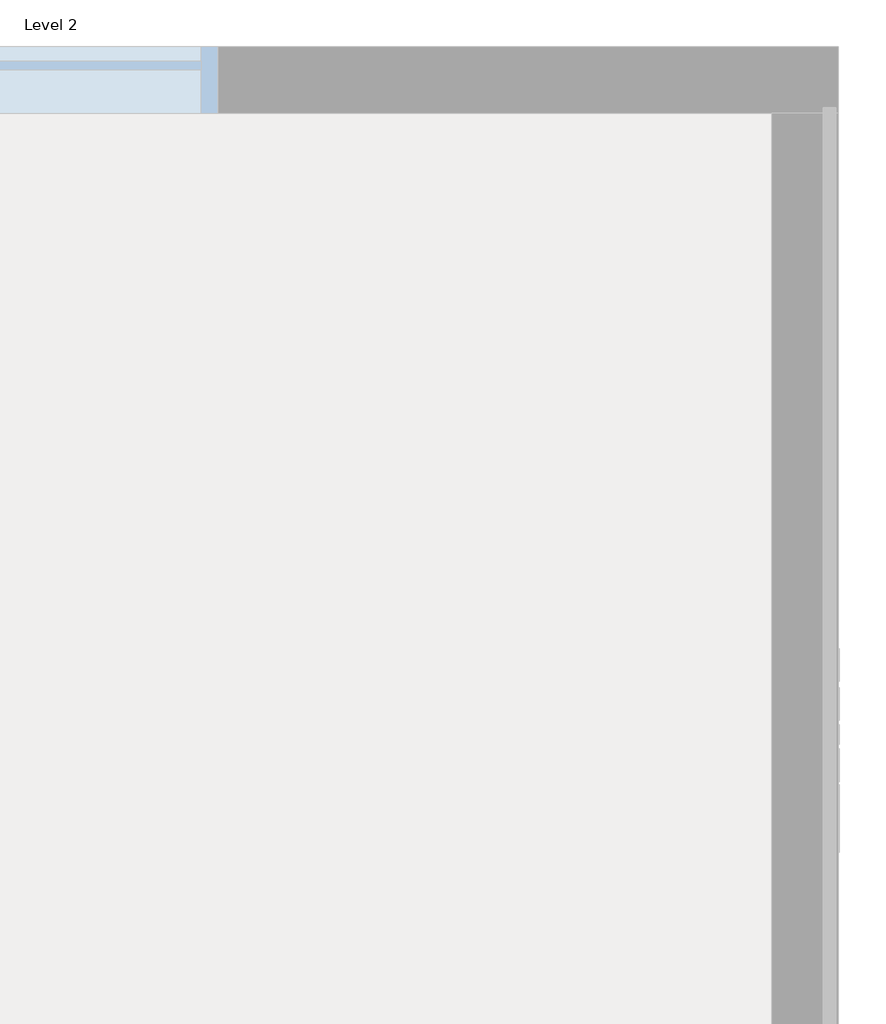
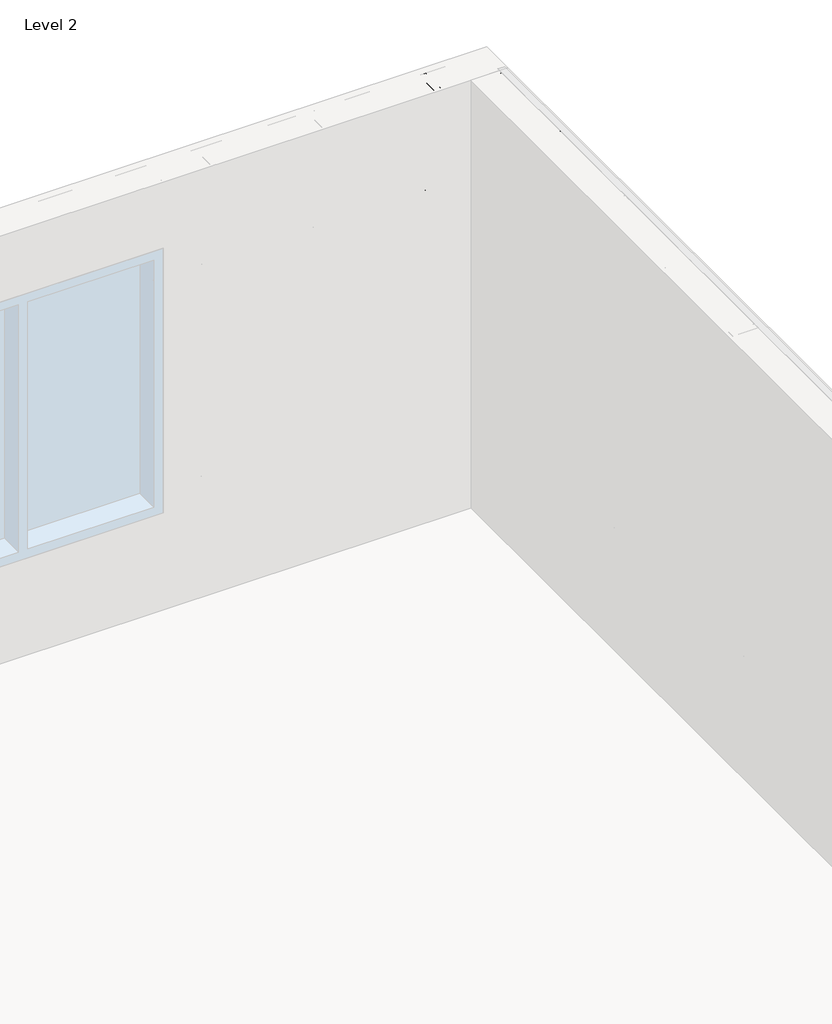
# One storey, part 46 of 46: 4 columns.
"""IFC4 building model written with IfcOpenShell, lengths in millimetres."""

from ifc_helpers import new_model, si_unit, point, frame, origin, place, context, project, spatial, circle_curve, ellipse_curve, trimmed, element, save
from ifc_brep_helpers import plane_surface, extruded_surface, advanced_brep

model = new_model("IFC4")

# Units and contexts
model_context = context("Model", 3, world=origin())
ifc_project = project(units=[si_unit("LENGTHUNIT", "METRE", prefix="MILLI")], contexts=[model_context])

# Site, building, storey
site = spatial("IfcSite", under=ifc_project)
building = spatial("IfcBuilding", under=site)
storey = spatial("IfcBuildingStorey", under=building, Name="Level 2", Elevation=3060.7)

# Columns
placement = place(None, origin())
element("IfcColumn", 1, ObjectType="BIMSF-SSMA-S-Column : 550NF150-43", at=placement, inside=storey, context=model_context, shape_type="AdvancedBrep", body=[
    advanced_brep(
    [(-3071.9413349, 14005.052221, 3061.5929687), (-3071.9413349, 13865.352221, 3061.5929687), (-3110.0413349, 13865.352221, 3061.5929687), (-3110.0413349, 13871.2771052, 3061.5929687), (-3108.8916507, 13871.2771052, 3061.5929687), (-3108.8916507, 13866.5019052, 3061.5929687), (-3073.0910191, 13866.5019052, 3061.5929687), (-3073.0910191, 14003.9025367, 3061.5929687), (-3108.8916507, 14003.9025367, 3061.5929687), (-3108.8916507, 13999.1273367, 3061.5929687), (-3110.0413349, 13999.1273367, 3061.5929687), (-3110.0413349, 14005.052221, 3061.5929687), (-3071.9413349, 14005.052221, 5523.6070313), (-3071.9413349, 13865.352221, 5523.6070313), (-3071.9413349, 13922.502221, 3671.1929688), (-3071.9413349, 13947.902221, 3671.1929688), (-3071.9413349, 13922.502221, 4890.3929687), (-3071.9413349, 13947.902221, 4890.3929687), (-3110.0413349, 13865.352221, 5523.6070313), (-3110.0413349, 13871.2771052, 5523.6070313), (-3108.8916507, 13871.2771052, 5523.6070313), (-3108.8916507, 13866.5019052, 5523.6070313), (-3073.0910191, 13866.5019052, 5523.6070313), (-3073.0910191, 14003.9025367, 5523.6070313), (-3073.0910191, 13947.902221, 3671.1929687), (-3073.0910191, 13922.502221, 3671.1929688), (-3073.0910191, 13947.902221, 4890.3929687), (-3073.0910191, 13922.502221, 4890.3929687), (-3108.8916507, 14003.9025367, 5523.6070313), (-3108.8916507, 13999.1273367, 5523.6070313), (-3110.0413349, 13999.1273367, 5523.6070313), (-3110.0413349, 14005.052221, 5523.6070313)],
    [
        (0, 1),
        (1, 2),
        (2, 3),
        (3, 4),
        (4, 5),
        (5, 6),
        (6, 7),
        (7, 8),
        (8, 9),
        (9, 10),
        (10, 11),
        (11, 0),
        (0, 12),
        (12, 13),
        (13, 1),
        (14, 15, circle_curve(frame((-3071.9413349, 13935.202221, 3671.1929688), z_axis=(-1.0, 0.0, 0.0), x_axis=(0.0, -1.0, 0.0)), 12.7)),
        (15, 14, circle_curve(frame((-3071.9413349, 13935.202221, 3671.1929688), z_axis=(-1.0, 0.0, 0.0), x_axis=(0.0, -1.0, 0.0)), 12.7)),
        (16, 17, circle_curve(frame((-3071.9413349, 13935.202221, 4890.3929688), z_axis=(-1.0, 0.0, 0.0), x_axis=(0.0, -1.0, 0.0)), 12.7)),
        (17, 16, circle_curve(frame((-3071.9413349, 13935.202221, 4890.3929688), z_axis=(-1.0, 0.0, 0.0), x_axis=(0.0, -1.0, 0.0)), 12.7)),
        (13, 18),
        (18, 2),
        (18, 19),
        (19, 3),
        (19, 20),
        (20, 4),
        (20, 21),
        (21, 5),
        (21, 22),
        (22, 6),
        (22, 23),
        (23, 7),
        (24, 25, circle_curve(frame((-3073.0910191, 13935.202221, 3671.1929688), z_axis=(1.0, 0.0, 0.0), x_axis=(0.0, -1.0, 0.0)), 12.7)),
        (25, 24, circle_curve(frame((-3073.0910191, 13935.202221, 3671.1929688), z_axis=(1.0, 0.0, 0.0), x_axis=(0.0, -1.0, 0.0)), 12.7)),
        (26, 27, circle_curve(frame((-3073.0910191, 13935.202221, 4890.3929687), z_axis=(1.0, 0.0, 0.0), x_axis=(0.0, -1.0, 0.0)), 12.7)),
        (27, 26, circle_curve(frame((-3073.0910191, 13935.202221, 4890.3929687), z_axis=(1.0, 0.0, 0.0), x_axis=(0.0, -1.0, 0.0)), 12.7)),
        (23, 28),
        (28, 8),
        (28, 29),
        (29, 9),
        (29, 30),
        (30, 10),
        (30, 31),
        (31, 11),
        (31, 12),
        (24, 15),
        (14, 25),
        (26, 17),
        (16, 27),
    ],
    [
        plane_surface(frame((-3071.9413349, 14005.052221, 3061.5929687), z_axis=(0.0, 0.0, -1.0), x_axis=(1.0, 0.0, 0.0))),
        plane_surface(frame((-3071.9413349, 13865.352221, 5523.6070313), z_axis=(1.0, 0.0, 0.0), x_axis=(0.0, 0.0, -1.0))),
        plane_surface(frame((-3110.0413349, 13865.352221, 5523.6070313), z_axis=(0.0, -1.0, 0.0), x_axis=(0.0, 0.0, -1.0))),
        plane_surface(frame((-3110.0413349, 13871.2771052, 5523.6070313), z_axis=(-1.0, 0.0, 0.0), x_axis=(0.0, 0.0, -1.0))),
        plane_surface(frame((-3108.8916507, 13871.2771052, 5523.6070313), z_axis=(0.0, 1.0, 0.0), x_axis=(0.0, 0.0, -1.0))),
        plane_surface(frame((-3108.8916507, 13866.5019052, 5523.6070313), z_axis=(1.0, 0.0, 0.0), x_axis=(0.0, 0.0, -1.0))),
        plane_surface(frame((-3073.0910191, 13866.5019052, 5523.6070313), z_axis=(0.0, 1.0, 0.0), x_axis=(0.0, 0.0, -1.0))),
        plane_surface(frame((-3073.0910191, 14003.9025367, 5523.6070313), z_axis=(-1.0, 0.0, 0.0), x_axis=(0.0, 0.0, -1.0))),
        plane_surface(frame((-3108.8916507, 14003.9025367, 5523.6070313), z_axis=(0.0, -1.0, 0.0), x_axis=(0.0, 0.0, -1.0))),
        plane_surface(frame((-3108.8916507, 13999.1273367, 5523.6070313), z_axis=(1.0, 0.0, 0.0), x_axis=(0.0, 0.0, -1.0))),
        plane_surface(frame((-3110.0413349, 13999.1273367, 5523.6070313), z_axis=(0.0, -1.0, 0.0), x_axis=(0.0, 0.0, -1.0))),
        plane_surface(frame((-3110.0413349, 14005.052221, 5523.6070313), z_axis=(-1.0, 0.0, 0.0), x_axis=(0.0, 0.0, -1.0))),
        plane_surface(frame((-3071.9413349, 14005.052221, 5523.6070313), z_axis=(0.0, 1.0, 0.0), x_axis=(0.0, 0.0, -1.0))),
        plane_surface(frame((-3071.9413349, 14005.052221, 5523.6070313), z_axis=(0.0, 0.0, 1.0), x_axis=(-1.0, 0.0, 0.0))),
        extruded_surface(trimmed(ellipse_curve(frame((-5553.0053974, 13935.202221, 3671.1929688), z_axis=(1.0, 0.0, 0.0), x_axis=(0.0, -1.0, 0.0)), 12.7, 12.7), [point((-5553.0053974, 13947.902221, 3671.1929688))], [point((-5553.0053974, 13922.502221, 3671.1929688))], True, "CARTESIAN"), (-4924.028124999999, 0.0, 0.0), 4924.028124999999),
        extruded_surface(trimmed(ellipse_curve(frame((-5553.0053974, 13935.202221, 3671.1929688), z_axis=(1.0, 0.0, 0.0), x_axis=(0.0, -1.0, 0.0)), 12.7, 12.7), [point((-5553.0053974, 13922.502221, 3671.1929688))], [point((-5553.0053974, 13947.902221, 3671.1929688))], True, "CARTESIAN"), (-4924.028124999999, 0.0, 0.0), 4924.028124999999),
        extruded_surface(trimmed(ellipse_curve(frame((-5553.0053974, 13935.202221, 4890.3929687), z_axis=(1.0, 0.0, 0.0), x_axis=(0.0, -1.0, 0.0)), 12.7, 12.7), [point((-5553.0053974, 13947.902221, 4890.3929687))], [point((-5553.0053974, 13922.502221, 4890.3929687))], True, "CARTESIAN"), (-4924.028124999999, 0.0, 0.0), 4924.028124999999),
        extruded_surface(trimmed(ellipse_curve(frame((-5553.0053974, 13935.202221, 4890.3929687), z_axis=(1.0, 0.0, 0.0), x_axis=(0.0, -1.0, 0.0)), 12.7, 12.7), [point((-5553.0053974, 13922.502221, 4890.3929687))], [point((-5553.0053974, 13947.902221, 4890.3929687))], True, "CARTESIAN"), (-4924.028124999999, 0.0, 0.0), 4924.028124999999),
    ],
    [
        (0, [[1, 2, 3, 4, 5, 6, 7, 8, 9, 10, 11, 12]]),
        (1, [[-1, 13, 14, 15], [16, 17], [18, 19]]),
        (2, [[-2, -15, 20, 21]]),
        (3, [[-3, -21, 22, 23]]),
        (4, [[-4, -23, 24, 25]]),
        (5, [[-5, -25, 26, 27]]),
        (6, [[-6, -27, 28, 29]]),
        (7, [[-7, -29, 30, 31], [32, 33], [34, 35]]),
        (8, [[-8, -31, 36, 37]]),
        (9, [[-9, -37, 38, 39]]),
        (10, [[-10, -39, 40, 41]]),
        (11, [[-11, -41, 42, 43]]),
        (12, [[-12, -43, 44, -13]]),
        (13, [[-14, -44, -42, -40, -38, -36, -30, -28, -26, -24, -22, -20]]),
        (14, [[45, -16, 46, -32]]),
        (15, [[-45, -33, -46, -17]]),
        (16, [[47, -18, 48, -34]]),
        (17, [[-47, -35, -48, -19]]),
    ],
),
])
element("IfcColumn", 2, ObjectType="BIMSF-SSMA-S-Column : 550NF150-43", at=placement, inside=storey, context=model_context, shape_type="AdvancedBrep", body=[
    advanced_brep(
    [(-3421.4889911, 13865.352221, 3061.5929687), (-3421.4889911, 14005.052221, 3061.5929687), (-3383.3889911, 14005.052221, 3061.5929687), (-3383.3889911, 13999.1273367, 3061.5929687), (-3384.5386753, 13999.1273367, 3061.5929687), (-3384.5386753, 14003.9025367, 3061.5929687), (-3420.3393069, 14003.9025367, 3061.5929687), (-3420.3393069, 13866.5019052, 3061.5929687), (-3384.5386753, 13866.5019052, 3061.5929687), (-3384.5386753, 13871.2771052, 3061.5929687), (-3383.3889911, 13871.2771052, 3061.5929687), (-3383.3889911, 13865.352221, 3061.5929687), (-3421.4889911, 13865.352221, 5523.6070313), (-3421.4889911, 14005.052221, 5523.6070313), (-3421.4889911, 13947.902221, 3671.1929688), (-3421.4889911, 13922.502221, 3671.1929688), (-3421.4889911, 13947.902221, 4890.3929687), (-3421.4889911, 13922.502221, 4890.3929687), (-3383.3889911, 14005.052221, 5523.6070313), (-3383.3889911, 13999.1273367, 5523.6070313), (-3384.5386753, 13999.1273367, 5523.6070313), (-3384.5386753, 14003.9025367, 5523.6070313), (-3420.3393069, 14003.9025367, 5523.6070313), (-3420.3393069, 13866.5019052, 5523.6070313), (-3420.3393069, 13922.502221, 3671.1929688), (-3420.3393069, 13947.902221, 3671.1929688), (-3420.3393069, 13922.502221, 4890.3929687), (-3420.3393069, 13947.902221, 4890.3929687), (-3384.5386753, 13866.5019052, 5523.6070313), (-3384.5386753, 13871.2771052, 5523.6070313), (-3383.3889911, 13871.2771052, 5523.6070313), (-3383.3889911, 13865.352221, 5523.6070313)],
    [
        (0, 1),
        (1, 2),
        (2, 3),
        (3, 4),
        (4, 5),
        (5, 6),
        (6, 7),
        (7, 8),
        (8, 9),
        (9, 10),
        (10, 11),
        (11, 0),
        (0, 12),
        (12, 13),
        (13, 1),
        (14, 15, circle_curve(frame((-3421.4889911, 13935.202221, 3671.1929687), z_axis=(1.0, 0.0, 0.0), x_axis=(0.0, 1.0, 0.0)), 12.7)),
        (15, 14, circle_curve(frame((-3421.4889911, 13935.202221, 3671.1929687), z_axis=(1.0, 0.0, 0.0), x_axis=(0.0, 1.0, 0.0)), 12.7)),
        (16, 17, circle_curve(frame((-3421.4889911, 13935.202221, 4890.3929687), z_axis=(1.0, 0.0, 0.0), x_axis=(0.0, 1.0, 0.0)), 12.7)),
        (17, 16, circle_curve(frame((-3421.4889911, 13935.202221, 4890.3929687), z_axis=(1.0, 0.0, 0.0), x_axis=(0.0, 1.0, 0.0)), 12.7)),
        (13, 18),
        (18, 2),
        (18, 19),
        (19, 3),
        (19, 20),
        (20, 4),
        (20, 21),
        (21, 5),
        (21, 22),
        (22, 6),
        (22, 23),
        (23, 7),
        (24, 25, circle_curve(frame((-3420.3393069, 13935.202221, 3671.1929688), z_axis=(-1.0, 0.0, 0.0), x_axis=(0.0, 1.0, 0.0)), 12.7)),
        (25, 24, circle_curve(frame((-3420.3393069, 13935.202221, 3671.1929688), z_axis=(-1.0, 0.0, 0.0), x_axis=(0.0, 1.0, 0.0)), 12.7)),
        (26, 27, circle_curve(frame((-3420.3393069, 13935.202221, 4890.3929687), z_axis=(-1.0, 0.0, 0.0), x_axis=(0.0, 1.0, 0.0)), 12.7)),
        (27, 26, circle_curve(frame((-3420.3393069, 13935.202221, 4890.3929687), z_axis=(-1.0, 0.0, 0.0), x_axis=(0.0, 1.0, 0.0)), 12.7)),
        (23, 28),
        (28, 8),
        (28, 29),
        (29, 9),
        (29, 30),
        (30, 10),
        (30, 31),
        (31, 11),
        (31, 12),
        (24, 15),
        (14, 25),
        (26, 17),
        (16, 27),
    ],
    [
        plane_surface(frame((-3421.4889911, 13865.352221, 3061.5929687), z_axis=(0.0, 0.0, -1.0), x_axis=(-1.0, 0.0, 0.0))),
        plane_surface(frame((-3421.4889911, 14005.052221, 5523.6070313), z_axis=(-1.0, 0.0, 0.0), x_axis=(0.0, 0.0, -1.0))),
        plane_surface(frame((-3383.3889911, 14005.052221, 5523.6070313), z_axis=(0.0, 1.0, 0.0), x_axis=(0.0, 0.0, -1.0))),
        plane_surface(frame((-3383.3889911, 13999.1273367, 5523.6070313), z_axis=(1.0, 0.0, 0.0), x_axis=(0.0, 0.0, -1.0))),
        plane_surface(frame((-3384.5386753, 13999.1273367, 5523.6070313), z_axis=(0.0, -1.0, 0.0), x_axis=(0.0, 0.0, -1.0))),
        plane_surface(frame((-3384.5386753, 14003.9025367, 5523.6070313), z_axis=(-1.0, 0.0, 0.0), x_axis=(0.0, 0.0, -1.0))),
        plane_surface(frame((-3420.3393069, 14003.9025367, 5523.6070313), z_axis=(0.0, -1.0, 0.0), x_axis=(0.0, 0.0, -1.0))),
        plane_surface(frame((-3420.3393069, 13866.5019052, 5523.6070313), z_axis=(1.0, 0.0, 0.0), x_axis=(0.0, 0.0, -1.0))),
        plane_surface(frame((-3384.5386753, 13866.5019052, 5523.6070313), z_axis=(0.0, 1.0, 0.0), x_axis=(0.0, 0.0, -1.0))),
        plane_surface(frame((-3384.5386753, 13871.2771052, 5523.6070313), z_axis=(-1.0, 0.0, 0.0), x_axis=(0.0, 0.0, -1.0))),
        plane_surface(frame((-3383.3889911, 13871.2771052, 5523.6070313), z_axis=(0.0, 1.0, 0.0), x_axis=(0.0, 0.0, -1.0))),
        plane_surface(frame((-3383.3889911, 13865.352221, 5523.6070313), z_axis=(1.0, 0.0, 0.0), x_axis=(0.0, 0.0, -1.0))),
        plane_surface(frame((-3421.4889911, 13865.352221, 5523.6070313), z_axis=(0.0, -1.0, 0.0), x_axis=(0.0, 0.0, -1.0))),
        plane_surface(frame((-3421.4889911, 13865.352221, 5523.6070313), z_axis=(0.0, 0.0, 1.0), x_axis=(1.0, 0.0, 0.0))),
        extruded_surface(trimmed(ellipse_curve(frame((-940.4249286, 13935.202221, 3671.1929688), z_axis=(-1.0, 0.0, 0.0), x_axis=(0.0, 1.0, 0.0)), 12.7, 12.7), [point((-940.4249286, 13922.502221, 3671.1929688))], [point((-940.4249286, 13947.902221, 3671.1929688))], True, "CARTESIAN"), (4924.028125, 0.0, 0.0), 4924.028125),
        extruded_surface(trimmed(ellipse_curve(frame((-940.4249286, 13935.202221, 3671.1929688), z_axis=(-1.0, 0.0, 0.0), x_axis=(0.0, 1.0, 0.0)), 12.7, 12.7), [point((-940.4249286, 13947.902221, 3671.1929688))], [point((-940.4249286, 13922.502221, 3671.1929688))], True, "CARTESIAN"), (4924.028125, 0.0, 0.0), 4924.028125),
        extruded_surface(trimmed(ellipse_curve(frame((-940.4249286, 13935.202221, 4890.3929687), z_axis=(-1.0, 0.0, 0.0), x_axis=(0.0, 1.0, 0.0)), 12.7, 12.7), [point((-940.4249286, 13922.502221, 4890.3929687))], [point((-940.4249286, 13947.902221, 4890.3929687))], True, "CARTESIAN"), (4924.028125, 0.0, 0.0), 4924.028125),
        extruded_surface(trimmed(ellipse_curve(frame((-940.4249286, 13935.202221, 4890.3929687), z_axis=(-1.0, 0.0, 0.0), x_axis=(0.0, 1.0, 0.0)), 12.7, 12.7), [point((-940.4249286, 13947.902221, 4890.3929687))], [point((-940.4249286, 13922.502221, 4890.3929687))], True, "CARTESIAN"), (4924.028125, 0.0, 0.0), 4924.028125),
    ],
    [
        (0, [[1, 2, 3, 4, 5, 6, 7, 8, 9, 10, 11, 12]]),
        (1, [[-1, 13, 14, 15], [16, 17], [18, 19]]),
        (2, [[-2, -15, 20, 21]]),
        (3, [[-3, -21, 22, 23]]),
        (4, [[-4, -23, 24, 25]]),
        (5, [[-5, -25, 26, 27]]),
        (6, [[-6, -27, 28, 29]]),
        (7, [[-7, -29, 30, 31], [32, 33], [34, 35]]),
        (8, [[-8, -31, 36, 37]]),
        (9, [[-9, -37, 38, 39]]),
        (10, [[-10, -39, 40, 41]]),
        (11, [[-11, -41, 42, 43]]),
        (12, [[-12, -43, 44, -13]]),
        (13, [[-14, -44, -42, -40, -38, -36, -30, -28, -26, -24, -22, -20]]),
        (14, [[45, -16, 46, -32]]),
        (15, [[-45, -33, -46, -17]]),
        (16, [[47, -18, 48, -34]]),
        (17, [[-47, -35, -48, -19]]),
    ],
),
])
element("IfcColumn", 3, ObjectType="BIMSF-SSMA-S-Column : 550NF150-43", at=placement, inside=storey, context=model_context, shape_type="AdvancedBrep", body=[
    advanced_brep(
    [(-3211.6413349, 13865.352221, 3061.5929687), (-3071.9413349, 13865.352221, 3061.5929687), (-3071.9413349, 13827.252221, 3061.5929687), (-3077.8662191, 13827.252221, 3061.5929687), (-3077.8662191, 13828.4019052, 3061.5929687), (-3073.0910191, 13828.4019052, 3061.5929687), (-3073.0910191, 13864.2025367, 3061.5929687), (-3210.4916507, 13864.2025367, 3061.5929687), (-3210.4916507, 13828.4019052, 3061.5929687), (-3205.7164507, 13828.4019052, 3061.5929687), (-3205.7164507, 13827.252221, 3061.5929687), (-3211.6413349, 13827.252221, 3061.5929687), (-3211.6413349, 13865.352221, 5523.6070313), (-3071.9413349, 13865.352221, 5523.6070313), (-3129.0913349, 13865.352221, 3671.1929688), (-3154.4913349, 13865.352221, 3671.1929688), (-3129.0913349, 13865.352221, 4890.3929687), (-3154.4913349, 13865.352221, 4890.3929687), (-3071.9413349, 13827.252221, 5523.6070313), (-3077.8662191, 13827.252221, 5523.6070313), (-3077.8662191, 13828.4019052, 5523.6070313), (-3073.0910191, 13828.4019052, 5523.6070313), (-3073.0910191, 13864.2025367, 5523.6070313), (-3210.4916507, 13864.2025367, 5523.6070313), (-3154.4913349, 13864.2025367, 3671.1929688), (-3129.0913349, 13864.2025367, 3671.1929688), (-3154.4913349, 13864.2025367, 4890.3929687), (-3129.0913349, 13864.2025367, 4890.3929687), (-3210.4916507, 13828.4019052, 5523.6070313), (-3205.7164507, 13828.4019052, 5523.6070313), (-3205.7164507, 13827.252221, 5523.6070313), (-3211.6413349, 13827.252221, 5523.6070313)],
    [
        (0, 1),
        (1, 2),
        (2, 3),
        (3, 4),
        (4, 5),
        (5, 6),
        (6, 7),
        (7, 8),
        (8, 9),
        (9, 10),
        (10, 11),
        (11, 0),
        (0, 12),
        (12, 13),
        (13, 1),
        (14, 15, circle_curve(frame((-3141.7913349, 13865.352221, 3671.1929687), z_axis=(0.0, -1.0, 0.0), x_axis=(1.0, 0.0, 0.0)), 12.7)),
        (15, 14, circle_curve(frame((-3141.7913349, 13865.352221, 3671.1929687), z_axis=(0.0, -1.0, 0.0), x_axis=(1.0, 0.0, 0.0)), 12.7)),
        (16, 17, circle_curve(frame((-3141.7913349, 13865.352221, 4890.3929687), z_axis=(0.0, -1.0, 0.0), x_axis=(1.0, 0.0, 0.0)), 12.7)),
        (17, 16, circle_curve(frame((-3141.7913349, 13865.352221, 4890.3929687), z_axis=(0.0, -1.0, 0.0), x_axis=(1.0, 0.0, 0.0)), 12.7)),
        (13, 18),
        (18, 2),
        (18, 19),
        (19, 3),
        (19, 20),
        (20, 4),
        (20, 21),
        (21, 5),
        (21, 22),
        (22, 6),
        (22, 23),
        (23, 7),
        (24, 25, circle_curve(frame((-3141.7913349, 13864.2025367, 3671.1929687), z_axis=(0.0, 1.0, 0.0), x_axis=(1.0, 0.0, 0.0)), 12.7)),
        (25, 24, circle_curve(frame((-3141.7913349, 13864.2025367, 3671.1929687), z_axis=(0.0, 1.0, 0.0), x_axis=(1.0, 0.0, 0.0)), 12.7)),
        (26, 27, circle_curve(frame((-3141.7913349, 13864.2025367, 4890.3929687), z_axis=(0.0, 1.0, 0.0), x_axis=(1.0, 0.0, 0.0)), 12.7)),
        (27, 26, circle_curve(frame((-3141.7913349, 13864.2025367, 4890.3929687), z_axis=(0.0, 1.0, 0.0), x_axis=(1.0, 0.0, 0.0)), 12.7)),
        (23, 28),
        (28, 8),
        (28, 29),
        (29, 9),
        (29, 30),
        (30, 10),
        (30, 31),
        (31, 11),
        (31, 12),
        (24, 15),
        (14, 25),
        (26, 17),
        (16, 27),
    ],
    [
        plane_surface(frame((-3211.6413349, 13865.352221, 3061.5929687), z_axis=(0.0, 0.0, -1.0), x_axis=(0.0, 1.0, 0.0))),
        plane_surface(frame((-3071.9413349, 13865.352221, 5523.6070313), z_axis=(0.0, 1.0, 0.0), x_axis=(0.0, 0.0, -1.0))),
        plane_surface(frame((-3071.9413349, 13827.252221, 5523.6070313), z_axis=(1.0, 0.0, 0.0), x_axis=(0.0, 0.0, -1.0))),
        plane_surface(frame((-3077.8662191, 13827.252221, 5523.6070313), z_axis=(0.0, -1.0, 0.0), x_axis=(0.0, 0.0, -1.0))),
        plane_surface(frame((-3077.8662191, 13828.4019052, 5523.6070313), z_axis=(-1.0, 0.0, 0.0), x_axis=(0.0, 0.0, -1.0))),
        plane_surface(frame((-3073.0910191, 13828.4019052, 5523.6070313), z_axis=(0.0, 1.0, 0.0), x_axis=(0.0, 0.0, -1.0))),
        plane_surface(frame((-3073.0910191, 13864.2025367, 5523.6070313), z_axis=(-1.0, 0.0, 0.0), x_axis=(0.0, 0.0, -1.0))),
        plane_surface(frame((-3210.4916507, 13864.2025367, 5523.6070313), z_axis=(0.0, -1.0, 0.0), x_axis=(0.0, 0.0, -1.0))),
        plane_surface(frame((-3210.4916507, 13828.4019052, 5523.6070313), z_axis=(1.0, 0.0, 0.0), x_axis=(0.0, 0.0, -1.0))),
        plane_surface(frame((-3205.7164507, 13828.4019052, 5523.6070313), z_axis=(0.0, 1.0, 0.0), x_axis=(0.0, 0.0, -1.0))),
        plane_surface(frame((-3205.7164507, 13827.252221, 5523.6070313), z_axis=(1.0, 0.0, 0.0), x_axis=(0.0, 0.0, -1.0))),
        plane_surface(frame((-3211.6413349, 13827.252221, 5523.6070313), z_axis=(0.0, -1.0, 0.0), x_axis=(0.0, 0.0, -1.0))),
        plane_surface(frame((-3211.6413349, 13865.352221, 5523.6070313), z_axis=(-1.0, 0.0, 0.0), x_axis=(0.0, 0.0, -1.0))),
        plane_surface(frame((-3211.6413349, 13865.352221, 5523.6070313), z_axis=(0.0, 0.0, 1.0), x_axis=(0.0, -1.0, 0.0))),
        extruded_surface(trimmed(ellipse_curve(frame((-3141.7913349, 11384.2881585, 3671.1929688), z_axis=(0.0, 1.0, 0.0), x_axis=(1.0, 0.0, 0.0)), 12.7, 12.7), [point((-3154.4913349, 11384.2881585, 3671.1929688))], [point((-3129.0913349, 11384.2881585, 3671.1929688))], True, "CARTESIAN"), (0.0, -4924.028125, 0.0), 4924.028125),
        extruded_surface(trimmed(ellipse_curve(frame((-3141.7913349, 11384.2881585, 3671.1929688), z_axis=(0.0, 1.0, 0.0), x_axis=(1.0, 0.0, 0.0)), 12.7, 12.7), [point((-3129.0913349, 11384.2881585, 3671.1929688))], [point((-3154.4913349, 11384.2881585, 3671.1929688))], True, "CARTESIAN"), (0.0, -4924.028125, 0.0), 4924.028125),
        extruded_surface(trimmed(ellipse_curve(frame((-3141.7913349, 11384.2881585, 4890.3929687), z_axis=(0.0, 1.0, 0.0), x_axis=(1.0, 0.0, 0.0)), 12.7, 12.7), [point((-3154.4913349, 11384.2881585, 4890.3929687))], [point((-3129.0913349, 11384.2881585, 4890.3929687))], True, "CARTESIAN"), (0.0, -4924.028125, 0.0), 4924.028125),
        extruded_surface(trimmed(ellipse_curve(frame((-3141.7913349, 11384.2881585, 4890.3929687), z_axis=(0.0, 1.0, 0.0), x_axis=(1.0, 0.0, 0.0)), 12.7, 12.7), [point((-3129.0913349, 11384.2881585, 4890.3929687))], [point((-3154.4913349, 11384.2881585, 4890.3929687))], True, "CARTESIAN"), (0.0, -4924.028125, 0.0), 4924.028125),
    ],
    [
        (0, [[1, 2, 3, 4, 5, 6, 7, 8, 9, 10, 11, 12]]),
        (1, [[-1, 13, 14, 15], [16, 17], [18, 19]]),
        (2, [[-2, -15, 20, 21]]),
        (3, [[-3, -21, 22, 23]]),
        (4, [[-4, -23, 24, 25]]),
        (5, [[-5, -25, 26, 27]]),
        (6, [[-6, -27, 28, 29]]),
        (7, [[-7, -29, 30, 31], [32, 33], [34, 35]]),
        (8, [[-8, -31, 36, 37]]),
        (9, [[-9, -37, 38, 39]]),
        (10, [[-10, -39, 40, 41]]),
        (11, [[-11, -41, 42, 43]]),
        (12, [[-12, -43, 44, -13]]),
        (13, [[-14, -44, -42, -40, -38, -36, -30, -28, -26, -24, -22, -20]]),
        (14, [[45, -16, 46, -32]]),
        (15, [[-45, -33, -46, -17]]),
        (16, [[47, -18, 48, -34]]),
        (17, [[-47, -35, -48, -19]]),
    ],
),
])
element("IfcColumn", 4, ObjectType="BIMSF-SSMA-S-Column : 550NF150-43", at=placement, inside=storey, context=model_context, shape_type="AdvancedBrep", body=[
    advanced_brep(
    [(-3071.9413349, 13236.702221, 3061.5929687), (-3211.6413349, 13236.702221, 3061.5929687), (-3211.6413349, 13274.802221, 3061.5929687), (-3205.7164507, 13274.802221, 3061.5929687), (-3205.7164507, 13273.6525367, 3061.5929687), (-3210.4916507, 13273.6525367, 3061.5929687), (-3210.4916507, 13237.8519052, 3061.5929687), (-3073.0910191, 13237.8519052, 3061.5929687), (-3073.0910191, 13273.6525367, 3061.5929687), (-3077.8662191, 13273.6525367, 3061.5929687), (-3077.8662191, 13274.802221, 3061.5929687), (-3071.9413349, 13274.802221, 3061.5929687), (-3071.9413349, 13236.702221, 5523.6070313), (-3211.6413349, 13236.702221, 5523.6070313), (-3154.4913349, 13236.702221, 3671.1929688), (-3129.0913349, 13236.702221, 3671.1929688), (-3154.4913349, 13236.702221, 4890.3929687), (-3129.0913349, 13236.702221, 4890.3929687), (-3211.6413349, 13274.802221, 5523.6070313), (-3205.7164507, 13274.802221, 5523.6070313), (-3205.7164507, 13273.6525367, 5523.6070313), (-3210.4916507, 13273.6525367, 5523.6070313), (-3210.4916507, 13237.8519052, 5523.6070313), (-3073.0910191, 13237.8519052, 5523.6070313), (-3129.0913349, 13237.8519052, 3671.1929688), (-3154.4913349, 13237.8519052, 3671.1929688), (-3129.0913349, 13237.8519052, 4890.3929688), (-3154.4913349, 13237.8519052, 4890.3929688), (-3073.0910191, 13273.6525367, 5523.6070313), (-3077.8662191, 13273.6525367, 5523.6070313), (-3077.8662191, 13274.802221, 5523.6070313), (-3071.9413349, 13274.802221, 5523.6070313)],
    [
        (0, 1),
        (1, 2),
        (2, 3),
        (3, 4),
        (4, 5),
        (5, 6),
        (6, 7),
        (7, 8),
        (8, 9),
        (9, 10),
        (10, 11),
        (11, 0),
        (0, 12),
        (12, 13),
        (13, 1),
        (14, 15, circle_curve(frame((-3141.7913349, 13236.702221, 3671.1929688), z_axis=(0.0, 1.0, 0.0), x_axis=(-1.0, 0.0, 0.0)), 12.7)),
        (15, 14, circle_curve(frame((-3141.7913349, 13236.702221, 3671.1929688), z_axis=(0.0, 1.0, 0.0), x_axis=(-1.0, 0.0, 0.0)), 12.7)),
        (16, 17, circle_curve(frame((-3141.7913349, 13236.702221, 4890.3929687), z_axis=(0.0, 1.0, 0.0), x_axis=(-1.0, 0.0, 0.0)), 12.7)),
        (17, 16, circle_curve(frame((-3141.7913349, 13236.702221, 4890.3929687), z_axis=(0.0, 1.0, 0.0), x_axis=(-1.0, 0.0, 0.0)), 12.7)),
        (13, 18),
        (18, 2),
        (18, 19),
        (19, 3),
        (19, 20),
        (20, 4),
        (20, 21),
        (21, 5),
        (21, 22),
        (22, 6),
        (22, 23),
        (23, 7),
        (24, 25, circle_curve(frame((-3141.7913349, 13237.8519052, 3671.1929688), z_axis=(0.0, -1.0, 0.0), x_axis=(-1.0, 0.0, 0.0)), 12.7)),
        (25, 24, circle_curve(frame((-3141.7913349, 13237.8519052, 3671.1929688), z_axis=(0.0, -1.0, 0.0), x_axis=(-1.0, 0.0, 0.0)), 12.7)),
        (26, 27, circle_curve(frame((-3141.7913349, 13237.8519052, 4890.3929687), z_axis=(0.0, -1.0, 0.0), x_axis=(-1.0, 0.0, 0.0)), 12.7)),
        (27, 26, circle_curve(frame((-3141.7913349, 13237.8519052, 4890.3929687), z_axis=(0.0, -1.0, 0.0), x_axis=(-1.0, 0.0, 0.0)), 12.7)),
        (23, 28),
        (28, 8),
        (28, 29),
        (29, 9),
        (29, 30),
        (30, 10),
        (30, 31),
        (31, 11),
        (31, 12),
        (24, 15),
        (14, 25),
        (26, 17),
        (16, 27),
    ],
    [
        plane_surface(frame((-3071.9413349, 13236.702221, 3061.5929687), z_axis=(0.0, 0.0, -1.0), x_axis=(0.0, -1.0, 0.0))),
        plane_surface(frame((-3211.6413349, 13236.702221, 5523.6070313), z_axis=(0.0, -1.0, 0.0), x_axis=(0.0, 0.0, -1.0))),
        plane_surface(frame((-3211.6413349, 13274.802221, 5523.6070313), z_axis=(-1.0, 0.0, 0.0), x_axis=(0.0, 0.0, -1.0))),
        plane_surface(frame((-3205.7164507, 13274.802221, 5523.6070313), z_axis=(0.0, 1.0, 0.0), x_axis=(0.0, 0.0, -1.0))),
        plane_surface(frame((-3205.7164507, 13273.6525367, 5523.6070313), z_axis=(1.0, 0.0, 0.0), x_axis=(0.0, 0.0, -1.0))),
        plane_surface(frame((-3210.4916507, 13273.6525367, 5523.6070313), z_axis=(0.0, -1.0, 0.0), x_axis=(0.0, 0.0, -1.0))),
        plane_surface(frame((-3210.4916507, 13237.8519052, 5523.6070313), z_axis=(1.0, 0.0, 0.0), x_axis=(0.0, 0.0, -1.0))),
        plane_surface(frame((-3073.0910191, 13237.8519052, 5523.6070313), z_axis=(0.0, 1.0, 0.0), x_axis=(0.0, 0.0, -1.0))),
        plane_surface(frame((-3073.0910191, 13273.6525367, 5523.6070313), z_axis=(-1.0, 0.0, 0.0), x_axis=(0.0, 0.0, -1.0))),
        plane_surface(frame((-3077.8662191, 13273.6525367, 5523.6070313), z_axis=(0.0, -1.0, 0.0), x_axis=(0.0, 0.0, -1.0))),
        plane_surface(frame((-3077.8662191, 13274.802221, 5523.6070313), z_axis=(-1.0, 0.0, 0.0), x_axis=(0.0, 0.0, -1.0))),
        plane_surface(frame((-3071.9413349, 13274.802221, 5523.6070313), z_axis=(0.0, 1.0, 0.0), x_axis=(0.0, 0.0, -1.0))),
        plane_surface(frame((-3071.9413349, 13236.702221, 5523.6070313), z_axis=(1.0, 0.0, 0.0), x_axis=(0.0, 0.0, -1.0))),
        plane_surface(frame((-3071.9413349, 13236.702221, 5523.6070313), z_axis=(0.0, 0.0, 1.0), x_axis=(0.0, 1.0, 0.0))),
        extruded_surface(trimmed(ellipse_curve(frame((-3141.7913349, 15717.7662835, 3671.1929688), z_axis=(0.0, -1.0, 0.0), x_axis=(-1.0, 0.0, 0.0)), 12.7, 12.7), [point((-3129.0913349, 15717.7662835, 3671.1929688))], [point((-3154.4913349, 15717.7662835, 3671.1929688))], True, "CARTESIAN"), (0.0, 4924.028125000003, 0.0), 4924.028125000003),
        extruded_surface(trimmed(ellipse_curve(frame((-3141.7913349, 15717.7662835, 3671.1929688), z_axis=(0.0, -1.0, 0.0), x_axis=(-1.0, 0.0, 0.0)), 12.7, 12.7), [point((-3154.4913349, 15717.7662835, 3671.1929688))], [point((-3129.0913349, 15717.7662835, 3671.1929688))], True, "CARTESIAN"), (0.0, 4924.028125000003, 0.0), 4924.028125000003),
        extruded_surface(trimmed(ellipse_curve(frame((-3141.7913349, 15717.7662835, 4890.3929687), z_axis=(0.0, -1.0, 0.0), x_axis=(-1.0, 0.0, 0.0)), 12.7, 12.7), [point((-3129.0913349, 15717.7662835, 4890.3929687))], [point((-3154.4913349, 15717.7662835, 4890.3929687))], True, "CARTESIAN"), (0.0, 4924.028125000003, 0.0), 4924.028125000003),
        extruded_surface(trimmed(ellipse_curve(frame((-3141.7913349, 15717.7662835, 4890.3929687), z_axis=(0.0, -1.0, 0.0), x_axis=(-1.0, 0.0, 0.0)), 12.7, 12.7), [point((-3154.4913349, 15717.7662835, 4890.3929687))], [point((-3129.0913349, 15717.7662835, 4890.3929687))], True, "CARTESIAN"), (0.0, 4924.028125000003, 0.0), 4924.028125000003),
    ],
    [
        (0, [[1, 2, 3, 4, 5, 6, 7, 8, 9, 10, 11, 12]]),
        (1, [[-1, 13, 14, 15], [16, 17], [18, 19]]),
        (2, [[-2, -15, 20, 21]]),
        (3, [[-3, -21, 22, 23]]),
        (4, [[-4, -23, 24, 25]]),
        (5, [[-5, -25, 26, 27]]),
        (6, [[-6, -27, 28, 29]]),
        (7, [[-7, -29, 30, 31], [32, 33], [34, 35]]),
        (8, [[-8, -31, 36, 37]]),
        (9, [[-9, -37, 38, 39]]),
        (10, [[-10, -39, 40, 41]]),
        (11, [[-11, -41, 42, 43]]),
        (12, [[-12, -43, 44, -13]]),
        (13, [[-14, -44, -42, -40, -38, -36, -30, -28, -26, -24, -22, -20]]),
        (14, [[45, -16, 46, -32]]),
        (15, [[-45, -33, -46, -17]]),
        (16, [[47, -18, 48, -34]]),
        (17, [[-47, -35, -48, -19]]),
    ],
),
])

save(model, "model.ifc")
